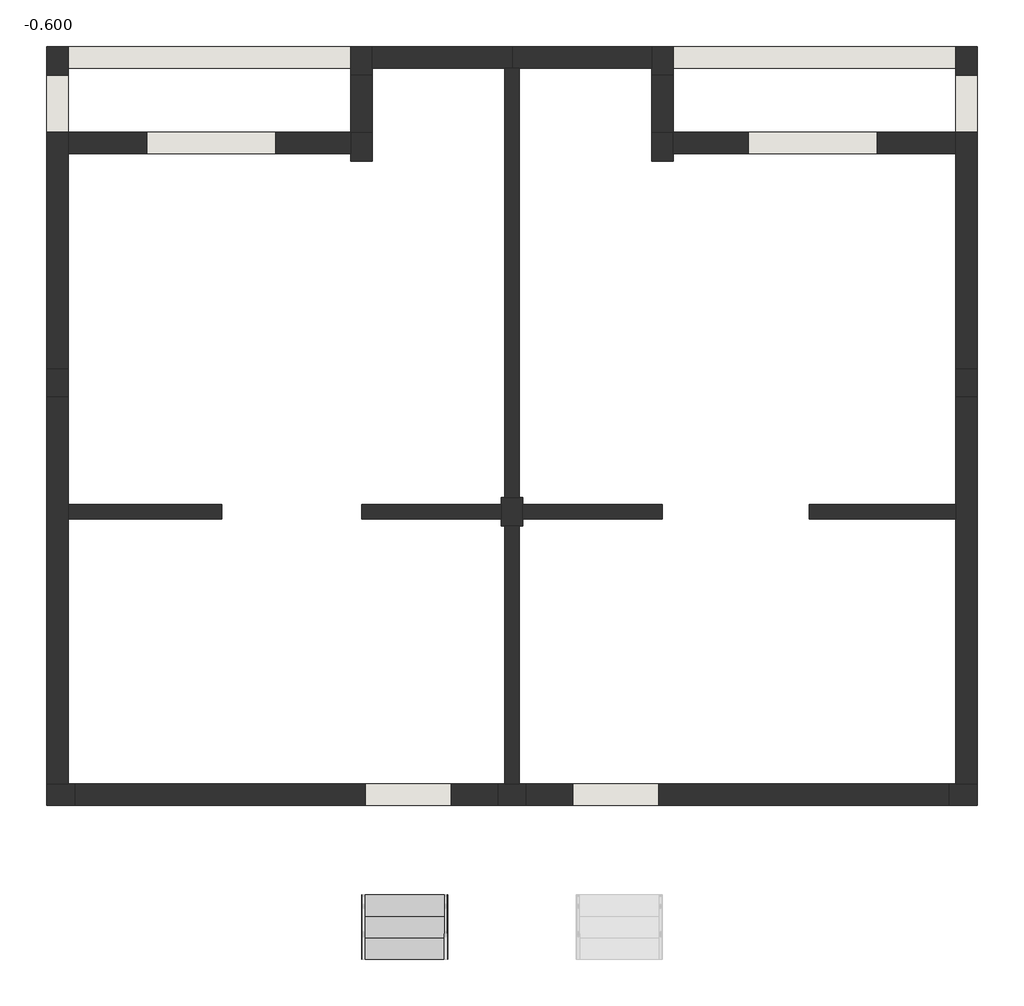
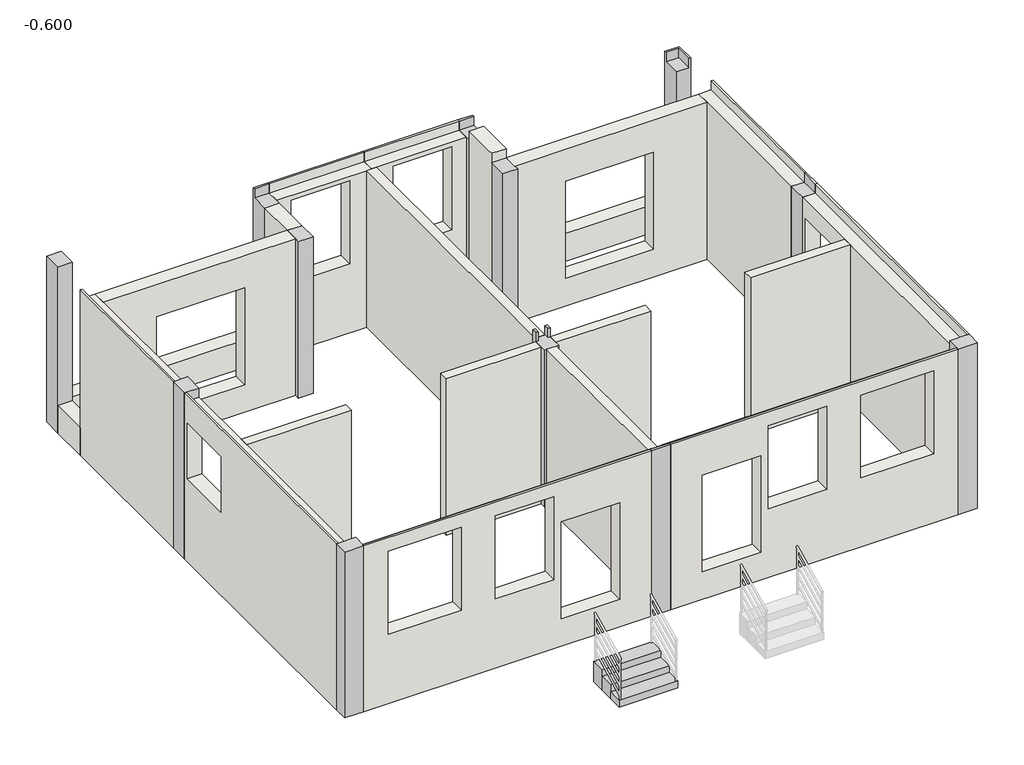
# One storey, part 1 of 2: 18 walls, 12 columns, 1 stair flight.
"""IFC4 building model written with IfcOpenShell, lengths in millimetres."""

from ifc_helpers import new_model, si_unit, frame, origin, place, context, project, spatial, polyline, outline, extrude, faceted_brep, transform, mapped, element, save
from components import z1_fb18289b

model = new_model("IFC4")

# Units and contexts
model_context = context("Model", 3, world=origin())
ifc_project = project(units=[si_unit("LENGTHUNIT", "METRE", prefix="MILLI")], contexts=[model_context])

# Site, building, storey
site = spatial("IfcSite", under=ifc_project)
building = spatial("IfcBuilding", under=site)
storey = spatial("IfcBuildingStorey", under=building, Name="-0.600", Elevation=-600.0)

# Columns
placement = place(None, origin())
element("IfcColumn", 1, ObjectType="混凝土 - 矩形 - 柱 : Z1", at=placement, inside=storey, context=model_context, shape_type="Brep", body=[
    faceted_brep([(-8339.5311174, -4969.5294667, -600.0), (-8039.5311174, -4969.5294667, -600.0), (-7939.5311174, -4969.5294667, -600.0), (-7939.5311174, -5269.5294667, -600.0), (-8339.5311174, -5269.5294667, -600.0), (-8339.5311174, -4969.5294667, 3000.0), (-8299.5311174, -4969.5294667, 3000.0), (-7939.5311174, -4969.5294667, 3000.0), (-7939.5311174, -4969.5294667, 2800.0), (-7939.5311174, -5229.5294667, 3000.0), (-7939.5311174, -5269.5294667, 3000.0), (-8339.5311174, -5269.5294667, 3000.0)], [[[0, 1, 2, 3, 4]], [[5, 6, 7, 8, 2, 1, 0]], [[7, 9, 10, 3, 2, 8]], [[10, 11, 4, 3]], [[11, 5, 0, 4]], [[5, 11, 10, 9, 7, 6]]]),
])
element("IfcColumn", 2, ObjectType="混凝土 - 矩形 - 柱 : Z1", at=placement, inside=storey, context=model_context, shape_type="Brep", body=[
    faceted_brep([(-3789.5311174, 5330.4705333, -600.0), (-3789.5311174, 5030.4705333, -600.0), (-3789.5311174, 4930.4705333, -600.0), (-4089.5311174, 4930.4705333, -600.0), (-4089.5311174, 5330.4705333, -600.0), (-3789.5311174, 5330.4705333, 3000.0), (-3789.5311174, 5290.4705333, 3000.0), (-3789.5311174, 5290.4705333, 2800.0), (-3789.5311174, 5030.4705333, 2800.0), (-3789.5311174, 4930.4705333, 2800.0), (-4089.5311174, 4930.4705333, 2800.0), (-4089.5311174, 5290.4705333, 2800.0), (-4089.5311174, 5290.4705333, 3000.0), (-4089.5311174, 5330.4705333, 3000.0)], [[[0, 1, 2, 3, 4]], [[2, 1, 0, 5, 6, 7, 8, 9]], [[3, 2, 9, 10]], [[4, 3, 10, 11, 12, 13]], [[0, 4, 13, 5]], [[5, 13, 12, 6]], [[7, 11, 10, 9, 8]], [[11, 7, 6, 12]]]),
])
element("IfcColumn", 3, ObjectType="混凝土 - 矩形 - 柱 : Z1", at=placement, inside=storey, context=model_context, shape_type="Brep", body=[
    faceted_brep([(-3789.5311174, 4130.4705333, -600.0), (-3789.5311174, 3730.4705333, -600.0), (-4089.5311174, 3730.4705333, -600.0), (-4089.5311174, 3830.4705333, -600.0), (-4089.5311174, 4130.4705333, -600.0), (-3789.5311174, 4130.4705333, 2800.0), (-3789.5311174, 3730.4705333, 2800.0), (-3939.5311174, 3730.4705333, 2800.0), (-4039.5311174, 3730.4705333, 2800.0), (-4089.5311174, 3730.4705333, 2800.0), (-4089.5311174, 3830.4705333, 2800.0), (-4089.5311174, 4130.4705333, 2800.0)], [[[0, 1, 2, 3, 4]], [[1, 0, 5, 6]], [[2, 1, 6, 7, 8, 9]], [[4, 3, 2, 9, 10, 11]], [[0, 4, 11, 5]], [[6, 5, 11, 10, 9, 8, 7]]]),
])
element("IfcColumn", 4, ObjectType="混凝土 - 矩形 - 柱 : Z1", at=placement, inside=storey, context=model_context, shape_type="Brep", body=[
    faceted_brep([(-8039.5311174, 830.4705333, -600.0), (-8039.5311174, 430.4705333, -600.0), (-8339.5311174, 430.4705333, -600.0), (-8339.5311174, 830.4705333, -600.0), (-8039.5311174, 830.4705333, 3000.0), (-8039.5311174, 430.4705333, 3000.0), (-8039.5311174, 430.4705333, 2800.0), (-8039.5311174, 830.4705333, 2800.0), (-8299.5311174, 430.4705333, 3000.0), (-8339.5311174, 430.4705333, 3000.0), (-8339.5311174, 830.4705333, 3000.0), (-8299.5311174, 830.4705333, 3000.0)], [[[0, 1, 2, 3]], [[4, 5, 6, 1, 0, 7]], [[5, 8, 9, 2, 1, 6]], [[9, 10, 3, 2]], [[10, 11, 4, 7, 0, 3]], [[4, 11, 10, 9, 8, 5]]]),
])
element("IfcColumn", 5, ObjectType="混凝土 - 矩形 - 柱 : Z1", at=placement, inside=storey, context=model_context, shape_type="Brep", body=[
    faceted_brep([(-1689.5311174, -969.5294667, -600.0), (-1689.5311174, -1069.5294667, -600.0), (-1689.5311174, -1269.5294667, -600.0), (-1689.5311174, -1369.5294667, -600.0), (-1739.5311174, -1369.5294667, -600.0), (-1939.5311174, -1369.5294667, -600.0), (-1989.5311174, -1369.5294667, -600.0), (-1989.5311174, -1269.5294667, -600.0), (-1989.5311174, -1069.5294667, -600.0), (-1989.5311174, -969.5294667, -600.0), (-1939.5311174, -969.5294667, -600.0), (-1739.5311174, -969.5294667, -600.0), (-1689.5311174, -969.5294667, 3000.0), (-1689.5311174, -1069.5294667, 3000.0), (-1689.5311174, -1069.5294667, 2800.0), (-1689.5311174, -1269.5294667, 2800.0), (-1689.5311174, -1369.5294667, 2800.0), (-1739.5311174, -1369.5294667, 2800.0), (-1939.5311174, -1369.5294667, 2800.0), (-1989.5311174, -1369.5294667, 2800.0), (-1989.5311174, -1269.5294667, 2800.0), (-1989.5311174, -1069.5294667, 2800.0), (-1989.5311174, -1069.5294667, 3000.0), (-1989.5311174, -969.5294667, 3000.0), (-1939.5311174, -969.5294667, 3000.0), (-1939.5311174, -969.5294667, 2800.0), (-1739.5311174, -969.5294667, 2800.0), (-1739.5311174, -969.5294667, 3000.0), (-1739.5311174, -1069.5294667, 3000.0), (-1939.5311174, -1069.5294667, 2800.0), (-1739.5311174, -1069.5294667, 2800.0), (-1939.5311174, -1069.5294667, 3000.0)], [[[0, 1, 2, 3, 4, 5, 6, 7, 8, 9, 10, 11]], [[3, 2, 1, 0, 12, 13, 14, 15, 16]], [[6, 5, 4, 3, 16, 17, 18, 19]], [[9, 8, 7, 6, 19, 20, 21, 22, 23]], [[0, 11, 10, 9, 23, 24, 25, 26, 27, 12]], [[12, 27, 28, 13]], [[25, 29, 21, 20, 19, 18, 17, 16, 15, 14, 30, 26]], [[29, 31, 22, 21]], [[31, 29, 25, 24]], [[30, 28, 27, 26]], [[28, 30, 14, 13]], [[24, 23, 22, 31]]]),
])
element("IfcColumn", 6, ObjectType="混凝土 - 矩形 - 柱 : Z1", at=placement, inside=storey, context=model_context, shape_type="Brep", body=[
    faceted_brep([(-2039.5311174, -4969.5294667, -600.0), (-1939.5311174, -4969.5294667, -600.0), (-1739.5311174, -4969.5294667, -600.0), (-1639.5311174, -4969.5294667, -600.0), (-1639.5311174, -5269.5294667, -600.0), (-2039.5311174, -5269.5294667, -600.0), (-2039.5311174, -4969.5294667, 2800.0), (-1939.5311174, -4969.5294667, 2800.0), (-1739.5311174, -4969.5294667, 2800.0), (-1639.5311174, -4969.5294667, 2800.0), (-1639.5311174, -5229.5294667, 2800.0), (-1639.5311174, -5229.5294667, 3000.0), (-1639.5311174, -5269.5294667, 3000.0), (-2039.5311174, -5269.5294667, 3000.0), (-2039.5311174, -5229.5294667, 3000.0), (-2039.5311174, -5229.5294667, 2800.0), (-1839.5311174, -5229.5294667, 3000.0), (-1839.5311174, -5229.5294667, 2800.0)], [[[0, 1, 2, 3, 4, 5]], [[3, 2, 1, 0, 6, 7, 8, 9]], [[4, 3, 9, 10, 11, 12]], [[5, 4, 12, 13]], [[0, 5, 13, 14, 15, 6]], [[13, 12, 11, 16, 14]], [[15, 17, 10, 9, 8, 7, 6]], [[17, 16, 11, 10]], [[16, 17, 15, 14]]]),
])
element("IfcColumn", 7, ObjectType="混凝土 - 矩形 - 柱 : Z1", at=placement, inside=storey, context=model_context, shape_type="Brep", body=[
    faceted_brep([(4660.4688826, -4969.5294667, -600.0), (4660.4688826, -5269.5294667, -600.0), (4260.4688826, -5269.5294667, -600.0), (4260.4688826, -4969.5294667, -600.0), (4360.4688826, -4969.5294667, -600.0), (4660.4688826, -4969.5294667, 3000.0), (4260.4688826, -4969.5294667, 2800.0), (4260.4688826, -4969.5294667, 3000.0), (4620.4688826, -4969.5294667, 3000.0), (4260.4688826, -5269.5294667, 3000.0), (4260.4688826, -5229.5294667, 3000.0), (4660.4688826, -5269.5294667, 3000.0)], [[[0, 1, 2, 3, 4]], [[5, 0, 4, 3, 6, 7, 8]], [[7, 6, 3, 2, 9, 10]], [[9, 2, 1, 11]], [[11, 1, 0, 5]], [[5, 8, 7, 10, 9, 11]]]),
])
element("IfcColumn", 8, ObjectType="混凝土 - 矩形 - 柱 : Z1", at=placement, inside=storey, context=model_context, shape_type="Brep", body=[
    faceted_brep([(4360.4688826, 5330.4705333, -600.0), (4660.4688826, 5330.4705333, -600.0), (4660.4688826, 4930.4705333, -600.0), (4360.4688826, 4930.4705333, -600.0), (4360.4688826, 4930.4705333, 2800.0), (4360.4688826, 5290.4705333, 2800.0), (4360.4688826, 5290.4705333, 3000.0), (4360.4688826, 5330.4705333, 3000.0), (4660.4688826, 4930.4705333, 3000.0), (4620.4688826, 4930.4705333, 3000.0), (4620.4688826, 4930.4705333, 2800.0), (4660.4688826, 5330.4705333, 3000.0), (4620.4688826, 5290.4705333, 3000.0), (4620.4688826, 5290.4705333, 2800.0)], [[[0, 1, 2, 3]], [[0, 3, 4, 5, 6, 7]], [[3, 2, 8, 9, 10, 4]], [[2, 1, 11, 8]], [[1, 0, 7, 11]], [[8, 11, 7, 6, 12, 9]], [[10, 13, 5, 4]], [[13, 12, 6, 5]], [[12, 13, 10, 9]]]),
])
element("IfcColumn", 9, ObjectType="混凝土 - 矩形 - 柱 : Z1", at=placement, inside=storey, context=model_context, shape_type="Brep", body=[
    faceted_brep([(110.4688826, 5330.4705333, -600.0), (410.4688826, 5330.4705333, -600.0), (410.4688826, 4930.4705333, -600.0), (110.4688826, 4930.4705333, -600.0), (110.4688826, 5030.4705333, -600.0), (110.4688826, 4930.4705333, 2800.0), (110.4688826, 5030.4705333, 2800.0), (110.4688826, 5290.4705333, 2800.0), (110.4688826, 5290.4705333, 3000.0), (110.4688826, 5330.4705333, 3000.0), (410.4688826, 4930.4705333, 2800.0), (410.4688826, 5330.4705333, 3000.0), (410.4688826, 5290.4705333, 3000.0), (410.4688826, 5290.4705333, 2800.0)], [[[0, 1, 2, 3, 4]], [[0, 4, 3, 5, 6, 7, 8, 9]], [[3, 2, 10, 5]], [[2, 1, 11, 12, 13, 10]], [[1, 0, 9, 11]], [[11, 9, 8, 12]], [[13, 7, 6, 5, 10]], [[7, 13, 12, 8]]]),
])
element("IfcColumn", 10, ObjectType="混凝土 - 矩形 - 柱 : Z1", at=placement, inside=storey, context=model_context, shape_type="Brep", body=[
    faceted_brep([(110.4688826, 4130.4705333, -600.0), (410.4688826, 4130.4705333, -600.0), (410.4688826, 3830.4705333, -600.0), (410.4688826, 3730.4705333, -600.0), (110.4688826, 3730.4705333, -600.0), (110.4688826, 3730.4705333, 2800.0), (110.4688826, 4130.4705333, 2800.0), (410.4688826, 3730.4705333, 2800.0), (360.4688826, 3730.4705333, 2800.0), (260.4688826, 3730.4705333, 2800.0), (410.4688826, 4130.4705333, 2800.0), (410.4688826, 3830.4705333, 2800.0)], [[[0, 1, 2, 3, 4]], [[0, 4, 5, 6]], [[4, 3, 7, 8, 9, 5]], [[3, 2, 1, 10, 11, 7]], [[1, 0, 6, 10]], [[6, 5, 9, 8, 7, 11, 10]]]),
])
element("IfcColumn", 11, ObjectType="混凝土 - 矩形 - 柱 : Z1", at=placement, inside=storey, context=model_context, shape_type="Brep", body=[
    faceted_brep([(4360.4688826, 830.4705333, -600.0), (4660.4688826, 830.4705333, -600.0), (4660.4688826, 430.4705333, -600.0), (4360.4688826, 430.4705333, -600.0), (4360.4688826, 430.4705333, 2800.0), (4360.4688826, 630.4705333, 2800.0), (4360.4688826, 730.4705333, 2800.0), (4360.4688826, 830.4705333, 2800.0), (4660.4688826, 430.4705333, 3000.0), (4620.4688826, 430.4705333, 3000.0), (4620.4688826, 430.4705333, 2800.0), (4660.4688826, 830.4705333, 3000.0), (4620.4688826, 830.4705333, 2800.0), (4620.4688826, 830.4705333, 3000.0)], [[[0, 1, 2, 3]], [[0, 3, 4, 5, 6, 7]], [[3, 2, 8, 9, 10, 4]], [[2, 1, 11, 8]], [[1, 0, 7, 12, 13, 11]], [[8, 11, 13, 9]], [[10, 12, 7, 6, 5, 4]], [[12, 10, 9, 13]]]),
])
z1_shape = z1_fb18289b(model_context)
element("IfcColumn", 12, ObjectType="混凝土 - 矩形 - 柱 : Z1", at=placement, inside=storey, context=model_context, shape_type="MappedRepresentation", body=[
    mapped(z1_shape, transform((-8189.5311174, 5130.4705333, 0.0), x_axis=(1.0, 0.0, 0.0), y_axis=(0.0, 1.0, 0.0), z_axis=(0.0, 0.0, 1.0))),
])

# Stair flight
element("IfcStairFlight", 13, ObjectType="150mm 结构深度", at=placement, inside=storey, context=model_context, shape_type="Brep", body=[
    faceted_brep([(-3939.5311174, -7119.5294667, -450.0), (-3939.5311174, -7419.5294667, -450.0), (-2739.5311174, -7419.5294667, -450.0), (-2739.5311174, -7119.5294667, -450.0), (-3939.5311174, -7119.5294667, -600.0), (-3939.5311174, -7419.5294667, -600.0), (-2739.5311174, -7419.5294667, -600.0), (-2739.5311174, -7119.5294667, -600.0), (-3939.5311174, -6819.5294667, -300.0), (-3939.5311174, -7119.5294667, -300.0), (-2739.5311174, -7119.5294667, -300.0), (-2739.5311174, -6819.5294667, -300.0), (-3939.5311174, -6819.5294667, -600.0), (-2739.5311174, -6819.5294667, -600.0), (-3939.5311174, -6519.5294667, -150.0), (-3939.5311174, -6819.5294667, -150.0), (-2739.5311174, -6819.5294667, -150.0), (-2739.5311174, -6519.5294667, -150.0), (-3939.5311174, -6519.5294667, -600.0), (-2739.5311174, -6519.5294667, -600.0)], [[[0, 1, 2, 3]], [[1, 0, 4, 5]], [[2, 1, 5, 6]], [[3, 2, 6, 7]], [[8, 9, 10, 11]], [[4, 0, 9, 8, 12]], [[0, 3, 10, 9]], [[3, 7, 13, 11, 10]], [[14, 15, 16, 17]], [[12, 8, 15, 14, 18]], [[8, 11, 16, 15]], [[11, 13, 19, 17, 16]], [[14, 17, 19, 18]], [[5, 4, 12, 18, 19, 13, 7, 6]]]),
])

# Walls
element("IfcWall", 14, ObjectType="300外墙", at=placement, inside=storey, context=model_context, shape_type="Brep", body=[
    faceted_brep([(-2039.5311174, -4969.5294667, -600.0), (-7939.5311174, -4969.5294667, -600.0), (-7939.5311174, -4969.5294667, 2800.0), (-2039.5311174, -4969.5294667, 2800.0), (-7439.5311174, -4969.5294667, 2700.0), (-7439.5311174, -4969.5294667, 900.0), (-5939.5311174, -4969.5294667, 900.0), (-5939.5311174, -4969.5294667, 2700.0), (-5239.5311174, -4969.5294667, 2700.0), (-5239.5311174, -4969.5294667, 900.0), (-4039.5311174, -4969.5294667, 900.0), (-4039.5311174, -4969.5294667, 2700.0), (-2689.5311174, -4969.5294667, 0.0), (-2689.5311174, -4969.5294667, 2100.0), (-3889.5311174, -4969.5294667, 2100.0), (-3889.5311174, -4969.5294667, 0.0), (-7939.5311174, -5269.5294667, 3000.0), (-7939.5311174, -5269.5294667, -600.0), (-2039.5311174, -5269.5294667, -600.0), (-2039.5311174, -5269.5294667, 3000.0), (-7439.5311174, -5269.5294667, 900.0), (-7439.5311174, -5269.5294667, 2700.0), (-5939.5311174, -5269.5294667, 2700.0), (-5939.5311174, -5269.5294667, 900.0), (-5239.5311174, -5269.5294667, 900.0), (-5239.5311174, -5269.5294667, 2700.0), (-4039.5311174, -5269.5294667, 2700.0), (-4039.5311174, -5269.5294667, 900.0), (-2689.5311174, -5269.5294667, 2100.0), (-2689.5311174, -5269.5294667, 0.0), (-3889.5311174, -5269.5294667, 0.0), (-3889.5311174, -5269.5294667, 2100.0), (-2039.5311174, -5229.5294667, 3000.0), (-7939.5311174, -5229.5294667, 3000.0), (-7939.5311174, -5229.5294667, 2800.0), (-2039.5311174, -5229.5294667, 2800.0)], [[[0, 1, 2, 3], [4, 5, 6, 7], [8, 9, 10, 11], [12, 13, 14, 15]], [[16, 17, 18, 19], [20, 21, 22, 23], [24, 25, 26, 27], [28, 29, 30, 31]], [[17, 1, 0, 18]], [[16, 19, 32, 33]], [[5, 4, 21, 20]], [[6, 5, 20, 23]], [[7, 6, 23, 22]], [[4, 7, 22, 21]], [[9, 8, 25, 24]], [[10, 9, 24, 27]], [[11, 10, 27, 26]], [[8, 11, 26, 25]], [[13, 12, 29, 28]], [[14, 13, 28, 31]], [[15, 14, 31, 30]], [[12, 15, 30, 29]], [[17, 16, 33, 34, 2, 1]], [[19, 18, 0, 3, 35, 32]], [[34, 35, 3, 2]], [[35, 34, 33, 32]]]),
])
element("IfcWall", 15, ObjectType="300外墙", at=placement, inside=storey, context=model_context, shape_type="Brep", body=[
    faceted_brep([(-8039.5311174, 830.4705333, -600.0), (-8039.5311174, 3830.4705333, -600.0), (-8039.5311174, 4130.4705333, -600.0), (-8039.5311174, 4130.4705333, 0.0), (-8039.5311174, 4130.4705333, 2800.0), (-8039.5311174, 3830.4705333, 2800.0), (-8039.5311174, 830.4705333, 2800.0), (-8339.5311174, 4130.4705333, 3000.0), (-8339.5311174, 4130.4705333, 0.0), (-8339.5311174, 4130.4705333, -600.0), (-8339.5311174, 830.4705333, -600.0), (-8339.5311174, 830.4705333, 3000.0), (-8299.5311174, 830.4705333, 3000.0), (-8299.5311174, 4130.4705333, 3000.0), (-8299.5311174, 4130.4705333, 2800.0), (-8299.5311174, 830.4705333, 2800.0)], [[[0, 1, 2, 3, 4, 5, 6]], [[7, 8, 9, 10, 11]], [[9, 2, 1, 0, 10]], [[7, 11, 12, 13]], [[2, 9, 8, 7, 13, 14, 4, 3]], [[11, 10, 0, 6, 15, 12]], [[14, 15, 6, 5, 4]], [[15, 14, 13, 12]]]),
    faceted_brep([(-8039.5311174, -4969.5294667, -600.0), (-8039.5311174, -1269.5294667, -600.0), (-8039.5311174, -1069.5294667, -600.0), (-8039.5311174, 430.4705333, -600.0), (-8039.5311174, 430.4705333, 2800.0), (-8039.5311174, -1069.5294667, 2800.0), (-8039.5311174, -1269.5294667, 2800.0), (-8039.5311174, -4969.5294667, 2800.0), (-8039.5311174, 330.4705333, 2400.0), (-8039.5311174, 330.4705333, 1200.0), (-8039.5311174, -869.5294667, 1200.0), (-8039.5311174, -869.5294667, 2400.0), (-8339.5311174, -4969.5294667, -600.0), (-8339.5311174, -4969.5294667, 3000.0), (-8339.5311174, 430.4705333, 3000.0), (-8339.5311174, 430.4705333, -600.0), (-8339.5311174, 330.4705333, 1200.0), (-8339.5311174, 330.4705333, 2400.0), (-8339.5311174, -869.5294667, 2400.0), (-8339.5311174, -869.5294667, 1200.0), (-8299.5311174, -4969.5294667, 3000.0), (-8299.5311174, 430.4705333, 3000.0), (-8299.5311174, -4969.5294667, 2800.0), (-8299.5311174, 430.4705333, 2800.0)], [[[0, 1, 2, 3, 4, 5, 6, 7], [8, 9, 10, 11]], [[12, 13, 14, 15], [16, 17, 18, 19]], [[0, 12, 15, 3, 2, 1]], [[14, 13, 20, 21]], [[13, 12, 0, 7, 22, 20]], [[9, 8, 17, 16]], [[10, 9, 16, 19]], [[11, 10, 19, 18]], [[8, 11, 18, 17]], [[15, 14, 21, 23, 4, 3]], [[23, 22, 7, 6, 5, 4]], [[22, 23, 21, 20]]]),
])
element("IfcWall", 16, ObjectType="300外墙", at=placement, inside=storey, context=model_context, shape_type="SweptSolid", body=[
    extrude(outline(polyline([(-600.0, -8039.5311174), (-600.0, -4089.5311174), (2800.0, -4089.5311174), (2800.0, -8039.5311174), (-600.0, -8039.5311174)]), holes=[polyline([(2100.0, -5139.5311174), (0.0, -5139.5311174), (0.0, -6939.5311174), (2100.0, -6939.5311174), (2100.0, -5139.5311174)])]), frame((0.0, 3830.4705333, 0.0), z_axis=(0.0, 1.0, 0.0), x_axis=(0.0, 0.0, 1.0)), (0.0, 0.0, 1.0), 300.0),
])
element("IfcWall", 17, ObjectType="300外墙", at=placement, inside=storey, context=model_context, shape_type="SweptSolid", body=[
    extrude(outline(polyline([(-3789.5311174, 4130.4705333), (-4089.5311174, 4130.4705333), (-4089.5311174, 4930.4705333), (-3789.5311174, 4930.4705333), (-3789.5311174, 4130.4705333)])), frame((0.0, 0.0, -600.0), z_axis=(0.0, 0.0, 1.0), x_axis=(1.0, 0.0, 0.0)), (0.0, 0.0, 1.0), 3400.0),
])
element("IfcWall", 18, ObjectType="300外墙", at=placement, inside=storey, context=model_context, shape_type="Brep", body=[
    faceted_brep([(-3789.5311174, 5030.4705333, -600.0), (-1939.5311174, 5030.4705333, -600.0), (-1839.5311174, 5030.4705333, -600.0), (-1839.5311174, 5030.4705333, 2800.0), (-1939.5311174, 5030.4705333, 2800.0), (-3789.5311174, 5030.4705333, 2800.0), (-2289.5311174, 5030.4705333, 2700.0), (-2289.5311174, 5030.4705333, 900.0), (-3489.5311174, 5030.4705333, 900.0), (-3489.5311174, 5030.4705333, 2700.0), (-1839.5311174, 5330.4705333, -600.0), (-3789.5311174, 5330.4705333, -600.0), (-3789.5311174, 5330.4705333, 3000.0), (-1839.5311174, 5330.4705333, 3000.0), (-2289.5311174, 5330.4705333, 900.0), (-2289.5311174, 5330.4705333, 2700.0), (-3489.5311174, 5330.4705333, 2700.0), (-3489.5311174, 5330.4705333, 900.0), (-1839.5311174, 5290.4705333, 3000.0), (-1839.5311174, 5290.4705333, 2800.0), (-3789.5311174, 5290.4705333, 3000.0), (-3789.5311174, 5290.4705333, 2800.0)], [[[0, 1, 2, 3, 4, 5], [6, 7, 8, 9]], [[10, 11, 12, 13], [14, 15, 16, 17]], [[2, 1, 0, 11, 10]], [[10, 13, 18, 19, 3, 2]], [[13, 12, 20, 18]], [[7, 6, 15, 14]], [[8, 7, 14, 17]], [[9, 8, 17, 16]], [[6, 9, 16, 15]], [[11, 0, 5, 21, 20, 12]], [[19, 21, 5, 4, 3]], [[21, 19, 18, 20]]]),
])
element("IfcWall", 19, ObjectType="300外墙", at=placement, inside=storey, context=model_context, shape_type="Brep", body=[
    faceted_brep([(-1639.5311174, -5269.5294667, 3000.0), (-1639.5311174, -5269.5294667, -600.0), (4260.4688826, -5269.5294667, -600.0), (4260.4688826, -5269.5294667, 3000.0), (1560.4688826, -5269.5294667, 2700.0), (1560.4688826, -5269.5294667, 900.0), (360.4688826, -5269.5294667, 900.0), (360.4688826, -5269.5294667, 2700.0), (3760.4688826, -5269.5294667, 2700.0), (3760.4688826, -5269.5294667, 900.0), (2260.4688826, -5269.5294667, 900.0), (2260.4688826, -5269.5294667, 2700.0), (-989.5311174, -5269.5294667, 0.0), (-989.5311174, -5269.5294667, 2100.0), (210.4688826, -5269.5294667, 2100.0), (210.4688826, -5269.5294667, 0.0), (4260.4688826, -4969.5294667, -600.0), (-1639.5311174, -4969.5294667, -600.0), (-1639.5311174, -4969.5294667, 2800.0), (4260.4688826, -4969.5294667, 2800.0), (1560.4688826, -4969.5294667, 900.0), (1560.4688826, -4969.5294667, 2700.0), (360.4688826, -4969.5294667, 2700.0), (360.4688826, -4969.5294667, 900.0), (3760.4688826, -4969.5294667, 900.0), (3760.4688826, -4969.5294667, 2700.0), (2260.4688826, -4969.5294667, 2700.0), (2260.4688826, -4969.5294667, 900.0), (-989.5311174, -4969.5294667, 2100.0), (-989.5311174, -4969.5294667, 0.0), (210.4688826, -4969.5294667, 0.0), (210.4688826, -4969.5294667, 2100.0), (4260.4688826, -5229.5294667, 3000.0), (-1639.5311174, -5229.5294667, 3000.0), (-1639.5311174, -5229.5294667, 2800.0), (4260.4688826, -5229.5294667, 2800.0)], [[[0, 1, 2, 3], [4, 5, 6, 7], [8, 9, 10, 11], [12, 13, 14, 15]], [[16, 17, 18, 19], [20, 21, 22, 23], [24, 25, 26, 27], [28, 29, 30, 31]], [[1, 17, 16, 2]], [[0, 3, 32, 33]], [[5, 4, 21, 20]], [[6, 5, 20, 23]], [[7, 6, 23, 22]], [[4, 7, 22, 21]], [[9, 8, 25, 24]], [[10, 9, 24, 27]], [[11, 10, 27, 26]], [[8, 11, 26, 25]], [[13, 12, 29, 28]], [[14, 13, 28, 31]], [[15, 14, 31, 30]], [[12, 15, 30, 29]], [[1, 0, 33, 34, 18, 17]], [[3, 2, 16, 19, 35, 32]], [[34, 35, 19, 18]], [[35, 34, 33, 32]]]),
])
element("IfcWall", 20, ObjectType="300外墙", at=placement, inside=storey, context=model_context, shape_type="Brep", body=[
    faceted_brep([(4660.4688826, 4130.4705333, -600.0), (4660.4688826, 4130.4705333, 0.0), (4660.4688826, 4130.4705333, 3000.0), (4660.4688826, 830.4705333, 3000.0), (4660.4688826, 830.4705333, -600.0), (4360.4688826, 4130.4705333, -600.0), (4360.4688826, 3830.4705333, -600.0), (4360.4688826, 830.4705333, -600.0), (4360.4688826, 830.4705333, 2800.0), (4360.4688826, 3830.4705333, 2800.0), (4360.4688826, 4130.4705333, 2800.0), (4360.4688826, 4130.4705333, 0.0), (4620.4688826, 4130.4705333, 3000.0), (4620.4688826, 830.4705333, 3000.0), (4620.4688826, 4130.4705333, 2800.0), (4620.4688826, 830.4705333, 2800.0)], [[[0, 1, 2, 3, 4]], [[5, 6, 7, 8, 9, 10, 11]], [[5, 0, 4, 7, 6]], [[3, 2, 12, 13]], [[0, 5, 11, 10, 14, 12, 2, 1]], [[4, 3, 13, 15, 8, 7]], [[15, 14, 10, 9, 8]], [[14, 15, 13, 12]]]),
    faceted_brep([(4660.4688826, -4969.5294667, 3000.0), (4660.4688826, -4969.5294667, -600.0), (4660.4688826, 430.4705333, -600.0), (4660.4688826, 430.4705333, 3000.0), (4660.4688826, 330.4705333, 2400.0), (4660.4688826, 330.4705333, 1200.0), (4660.4688826, -869.5294667, 1200.0), (4660.4688826, -869.5294667, 2400.0), (4360.4688826, 430.4705333, -600.0), (4360.4688826, -1069.5294667, -600.0), (4360.4688826, -1269.5294667, -600.0), (4360.4688826, -4969.5294667, -600.0), (4360.4688826, -4969.5294667, 2800.0), (4360.4688826, -1269.5294667, 2800.0), (4360.4688826, -1069.5294667, 2800.0), (4360.4688826, 430.4705333, 2800.0), (4360.4688826, 330.4705333, 1200.0), (4360.4688826, 330.4705333, 2400.0), (4360.4688826, -869.5294667, 2400.0), (4360.4688826, -869.5294667, 1200.0), (4620.4688826, 430.4705333, 3000.0), (4620.4688826, -4969.5294667, 3000.0), (4620.4688826, -4969.5294667, 2800.0), (4620.4688826, 430.4705333, 2800.0)], [[[0, 1, 2, 3], [4, 5, 6, 7]], [[8, 9, 10, 11, 12, 13, 14, 15], [16, 17, 18, 19]], [[1, 11, 10, 9, 8, 2]], [[0, 3, 20, 21]], [[1, 0, 21, 22, 12, 11]], [[5, 4, 17, 16]], [[6, 5, 16, 19]], [[7, 6, 19, 18]], [[4, 7, 18, 17]], [[3, 2, 8, 15, 23, 20]], [[22, 23, 15, 14, 13, 12]], [[23, 22, 21, 20]]]),
])
element("IfcWall", 21, ObjectType="300外墙", at=placement, inside=storey, context=model_context, shape_type="SweptSolid", body=[
    extrude(outline(polyline([(-600.0, 410.4688826), (-600.0, 4360.4688826), (2800.0, 4360.4688826), (2800.0, 410.4688826), (-600.0, 410.4688826)]), holes=[polyline([(0.0, 1460.4688826), (2100.0, 1460.4688826), (2100.0, 3260.4688826), (0.0, 3260.4688826), (0.0, 1460.4688826)])]), frame((0.0, 3830.4705333, 0.0), z_axis=(0.0, 1.0, 0.0), x_axis=(0.0, 0.0, 1.0)), (0.0, 0.0, 1.0), 300.0),
])
element("IfcWall", 22, ObjectType="300外墙", at=placement, inside=storey, context=model_context, shape_type="Brep", body=[
    faceted_brep([(410.4688826, 4130.4705333, 3000.0), (410.4688826, 4130.4705333, 2800.0), (410.4688826, 4130.4705333, -600.0), (410.4688826, 4930.4705333, -600.0), (410.4688826, 4930.4705333, 2800.0), (410.4688826, 4930.4705333, 3000.0), (410.4688826, 4230.4705333, 3000.0), (110.4688826, 4130.4705333, -600.0), (110.4688826, 4130.4705333, 2800.0), (110.4688826, 4130.4705333, 3000.0), (110.4688826, 4230.4705333, 3000.0), (110.4688826, 4930.4705333, 3000.0), (110.4688826, 4930.4705333, 2800.0), (110.4688826, 4930.4705333, -600.0)], [[[0, 1, 2, 3, 4, 5, 6]], [[7, 8, 9, 10, 11, 12, 13]], [[2, 7, 13, 3]], [[9, 0, 6, 5, 11, 10]], [[0, 9, 8, 7, 2, 1]], [[5, 4, 3, 13, 12, 11]]]),
])
element("IfcWall", 23, ObjectType="300外墙", at=placement, inside=storey, context=model_context, shape_type="Brep", body=[
    faceted_brep([(110.4688826, 5330.4705333, -600.0), (-1839.5311174, 5330.4705333, -600.0), (-1839.5311174, 5330.4705333, 3000.0), (110.4688826, 5330.4705333, 3000.0), (-1389.5311174, 5330.4705333, 2700.0), (-1389.5311174, 5330.4705333, 900.0), (-189.5311174, 5330.4705333, 900.0), (-189.5311174, 5330.4705333, 2700.0), (-1839.5311174, 5030.4705333, -600.0), (-1739.5311174, 5030.4705333, -600.0), (110.4688826, 5030.4705333, -600.0), (110.4688826, 5030.4705333, 2800.0), (-1739.5311174, 5030.4705333, 2800.0), (-1839.5311174, 5030.4705333, 2800.0), (-1389.5311174, 5030.4705333, 900.0), (-1389.5311174, 5030.4705333, 2700.0), (-189.5311174, 5030.4705333, 2700.0), (-189.5311174, 5030.4705333, 900.0), (-1839.5311174, 5290.4705333, 2800.0), (-1839.5311174, 5290.4705333, 3000.0), (110.4688826, 5290.4705333, 3000.0), (110.4688826, 5290.4705333, 2800.0)], [[[0, 1, 2, 3], [4, 5, 6, 7]], [[8, 9, 10, 11, 12, 13], [14, 15, 16, 17]], [[1, 0, 10, 9, 8]], [[2, 1, 8, 13, 18, 19]], [[3, 2, 19, 20]], [[5, 4, 15, 14]], [[6, 5, 14, 17]], [[7, 6, 17, 16]], [[4, 7, 16, 15]], [[10, 0, 3, 20, 21, 11]], [[21, 18, 13, 12, 11]], [[18, 21, 20, 19]]]),
])
element("IfcWall", 24, ObjectType="200内墙", at=placement, inside=storey, context=model_context, shape_type="Brep", body=[
    faceted_brep([(-1739.5311174, -4969.5294667, -600.0), (-1739.5311174, -1369.5294667, -600.0), (-1739.5311174, -1369.5294667, 2800.0), (-1739.5311174, -4969.5294667, 2800.0), (-1939.5311174, -1369.5294667, -600.0), (-1939.5311174, -4969.5294667, -600.0), (-1939.5311174, -4969.5294667, 2800.0), (-1939.5311174, -1369.5294667, 2800.0)], [[[0, 1, 2, 3]], [[4, 5, 6, 7]], [[0, 5, 4, 1]], [[5, 0, 3, 6]], [[1, 4, 7, 2]], [[3, 2, 7, 6]]]),
    faceted_brep([(-1739.5311174, -969.5294667, -600.0), (-1739.5311174, 5030.4705333, -600.0), (-1739.5311174, 5030.4705333, 2800.0), (-1739.5311174, 2220.4705333, 2800.0), (-1739.5311174, 2120.4705333, 2800.0), (-1739.5311174, 630.4705333, 2800.0), (-1739.5311174, 530.4705333, 2800.0), (-1739.5311174, -969.5294667, 2800.0), (-1939.5311174, 5030.4705333, -600.0), (-1939.5311174, -969.5294667, -600.0), (-1939.5311174, -969.5294667, 2800.0), (-1939.5311174, 530.4705333, 2800.0), (-1939.5311174, 630.4705333, 2800.0), (-1939.5311174, 2120.4705333, 2800.0), (-1939.5311174, 2220.4705333, 2800.0), (-1939.5311174, 5030.4705333, 2800.0), (-1839.5311174, 5030.4705333, -600.0), (-1839.5311174, 5030.4705333, 2800.0)], [[[0, 1, 2, 3, 4, 5, 6, 7]], [[8, 9, 10, 11, 12, 13, 14, 15]], [[8, 16, 1, 0, 9]], [[1, 16, 8, 15, 17, 2]], [[9, 0, 7, 10]], [[7, 6, 5, 4, 3, 2, 17, 15, 14, 13, 12, 11, 10]]]),
])
element("IfcWall", 25, ObjectType="200内墙", at=placement, inside=storey, context=model_context, shape_type="Brep", body=[
    faceted_brep([(-8039.5311174, -1269.5294667, -600.0), (-5889.5311174, -1269.5294667, -600.0), (-5889.5311174, -1269.5294667, 2800.0), (-8039.5311174, -1269.5294667, 2800.0), (-5889.5311174, -1069.5294667, -600.0), (-8039.5311174, -1069.5294667, -600.0), (-8039.5311174, -1069.5294667, 2800.0), (-5889.5311174, -1069.5294667, 2800.0), (-5889.5311174, -1069.5294667, 0.0)], [[[0, 1, 2, 3]], [[4, 5, 6, 7, 8]], [[1, 0, 5, 4]], [[5, 0, 3, 6]], [[1, 4, 8, 7, 2]], [[3, 2, 7, 6]]]),
])
element("IfcWall", 26, ObjectType="200内墙", at=placement, inside=storey, context=model_context, shape_type="SweptSolid", body=[
    extrude(outline(polyline([(260.4688826, -1069.5294667), (260.4688826, -1269.5294667), (-1689.5311174, -1269.5294667), (-1689.5311174, -1069.5294667), (260.4688826, -1069.5294667)])), frame((0.0, 0.0, -600.0), z_axis=(0.0, 0.0, 1.0), x_axis=(1.0, 0.0, 0.0)), (0.0, 0.0, 1.0), 3400.0),
    extrude(outline(polyline([(-3939.5311174, -1269.5294667), (-3939.5311174, -1069.5294667), (-1989.5311174, -1069.5294667), (-1989.5311174, -1269.5294667), (-3939.5311174, -1269.5294667)])), frame((0.0, 0.0, -600.0), z_axis=(0.0, 0.0, 1.0), x_axis=(1.0, 0.0, 0.0)), (0.0, 0.0, 1.0), 3400.0),
])
element("IfcWall", 27, ObjectType="200内墙", at=placement, inside=storey, context=model_context, shape_type="Brep", body=[
    faceted_brep([(2310.4688826, -1269.5294667, -600.0), (4360.4688826, -1269.5294667, -600.0), (4360.4688826, -1269.5294667, 2800.0), (2310.4688826, -1269.5294667, 2800.0), (2310.4688826, -1269.5294667, 0.0), (4360.4688826, -1069.5294667, -600.0), (2310.4688826, -1069.5294667, -600.0), (2310.4688826, -1069.5294667, 2800.0), (4360.4688826, -1069.5294667, 2800.0)], [[[0, 1, 2, 3, 4]], [[5, 6, 7, 8]], [[1, 0, 6, 5]], [[1, 5, 8, 2]], [[6, 0, 4, 3, 7]], [[3, 2, 8, 7]]]),
])
element("IfcWall", 28, ObjectType="300外墙", at=placement, inside=storey, context=model_context, shape_type="SweptSolid", body=[
    extrude(outline(polyline([(4360.4688826, 5030.4705333), (410.4688826, 5030.4705333), (410.4688826, 5330.4705333), (4360.4688826, 5330.4705333), (4360.4688826, 5030.4705333)])), frame((0.0, 0.0, -600.0), z_axis=(0.0, 0.0, 1.0), x_axis=(1.0, 0.0, 0.0)), (0.0, 0.0, 1.0), 600.0),
])
element("IfcWall", 29, ObjectType="300外墙", at=placement, inside=storey, context=model_context, shape_type="SweptSolid", body=[
    extrude(outline(polyline([(4360.4688826, 4130.4705333), (4360.4688826, 4930.4705333), (4660.4688826, 4930.4705333), (4660.4688826, 4130.4705333), (4360.4688826, 4130.4705333)])), frame((0.0, 0.0, -600.0), z_axis=(0.0, 0.0, 1.0), x_axis=(1.0, 0.0, 0.0)), (0.0, 0.0, 1.0), 600.0),
])
element("IfcWall", 30, ObjectType="300外墙", at=placement, inside=storey, context=model_context, shape_type="SweptSolid", body=[
    extrude(outline(polyline([(-8039.5311174, 5330.4705333), (-4089.5311174, 5330.4705333), (-4089.5311174, 5030.4705333), (-8039.5311174, 5030.4705333), (-8039.5311174, 5330.4705333)])), frame((0.0, 0.0, -600.0), z_axis=(0.0, 0.0, 1.0), x_axis=(1.0, 0.0, 0.0)), (0.0, 0.0, 1.0), 600.0),
])
element("IfcWall", 31, ObjectType="300外墙", at=placement, inside=storey, context=model_context, shape_type="SweptSolid", body=[
    extrude(outline(polyline([(-8339.5311174, 4130.4705333), (-8339.5311174, 4930.4705333), (-8039.5311174, 4930.4705333), (-8039.5311174, 4130.4705333), (-8339.5311174, 4130.4705333)])), frame((0.0, 0.0, -600.0), z_axis=(0.0, 0.0, 1.0), x_axis=(1.0, 0.0, 0.0)), (0.0, 0.0, 1.0), 600.0),
])

save(model, "model.ifc")
